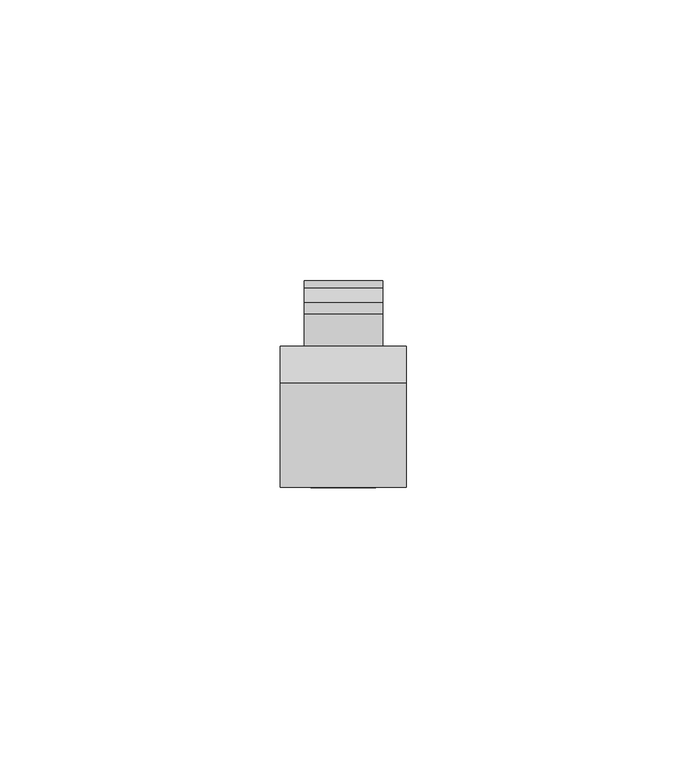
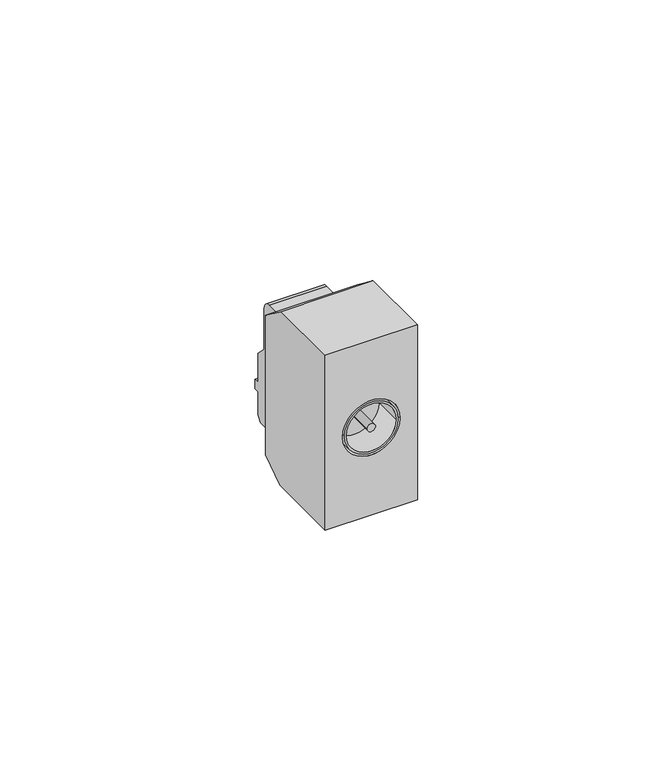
"""IFC4 building model written with IfcOpenShell, lengths in millimetres: proxy geometry."""

from ifc_helpers import new_model, si_unit, point, frame, frame_2d, origin, place, context, project, spatial, polyline, circle_curve, trimmed, segment, composite_curve, outline, extrude, source, transform, mapped, element, save
from ifc_brep_helpers import plane_surface, revolved_surface, advanced_brep


def electrical_fixtures_02093a46(model_context):
    return source(origin(), model_context, "Body", "SolidModel", [
        extrude(outline(composite_curve([segment(trimmed(circle_curve(frame_2d((0.0, 11.2)), 6.5), [point((0.0, 4.7))], [point((0.0, 17.7))], False, "CARTESIAN"), True, "CONTINUOUS"), segment(trimmed(circle_curve(frame_2d((0.0, 11.2)), 6.5), [point((0.0, 17.7))], [point((0.0, 4.7))], False, "CARTESIAN"), True, "CONTINUOUS")], self_intersect=False), holes=[composite_curve([segment(trimmed(circle_curve(frame_2d((0.0, 11.2)), 6.0), [point((0.0, 17.2))], [point((0.0, 5.2))], True, "CARTESIAN"), True, "CONTINUOUS"), segment(trimmed(circle_curve(frame_2d((0.0, 11.2)), 6.0), [point((0.0, 5.2))], [point((0.0, 17.2))], True, "CARTESIAN"), True, "CONTINUOUS")], self_intersect=False)]), frame((0.0, -7.0, 0.0), z_axis=(0.0, 1.0, 0.0), x_axis=(0.0, 0.0, 1.0)), (0.0, 0.0, 1.0), 7.0),
        extrude(outline(composite_curve([segment(trimmed(circle_curve(frame_2d((0.0, 11.2)), 1.0), [point((0.0, 10.2))], [point((0.0, 12.2))], False, "CARTESIAN"), True, "CONTINUOUS"), segment(trimmed(circle_curve(frame_2d((0.0, 11.2)), 1.0), [point((0.0, 12.2))], [point((0.0, 10.2))], False, "CARTESIAN"), True, "CONTINUOUS")], self_intersect=False)), frame((0.0, -7.0, 0.0), z_axis=(0.0, 1.0, 0.0), x_axis=(0.0, 0.0, 1.0)), (0.0, 0.0, 1.0), 7.0),
        extrude(outline(composite_curve([segment(polyline([(18.185865, -17.2591334), (18.185865, 15.1213031), (23.9332742, 15.1213031)]), True, "CONTINUOUS"), segment(trimmed(circle_curve(frame_2d((23.9332742, 13.1353336)), 1.9859696), [point((23.9332742, 15.1213031))], [point((25.9192438, 13.1353336))], False, "CARTESIAN"), True, "CONTINUOUS"), segment(polyline([(25.9192438, 13.1353336), (25.9192438, 2.6100083), (28.5292521, 0.0), (28.5292521, -7.4593956), (29.9, -7.4593956), (29.9, -9.8957394), (28.5292521, -9.8957394), (28.5292521, -15.4231572)]), True, "CONTINUOUS"), segment(trimmed(circle_curve(frame_2d((26.6932758, -15.4231572)), 1.8359762), [point((28.5292521, -15.4231572))], [point((26.6932758, -17.2591334))], False, "CARTESIAN"), True, "CONTINUOUS"), segment(polyline([(26.6932758, -17.2591334), (18.185865, -17.2591334)]), True, "CONTINUOUS")], self_intersect=False)), frame((4.2, 0.0, 0.0), z_axis=(1.0, 0.0, 0.0), x_axis=(0.0, 1.0, 0.0)), (0.0, 0.0, 1.0), 14.0),
        advanced_brep(
        [(22.4, -7.0, -22.45), (22.4, -7.0, 22.45), (0.0, -7.0, 22.45), (0.0, -7.0, -22.45), (18.2, -7.0, 0.0), (4.2, -7.0, 0.0), (22.4, 12.0, -22.45), (22.4, 18.185865, -18.2775814), (22.4, 18.185865, 17.4747472), (22.4, 11.5834815, 22.45), (0.0, 11.5834815, 22.45), (0.0, 18.185865, 17.4747472), (0.0, 18.185865, -18.2775814), (0.0, 12.0, -22.45), (4.2, 0.0, 0.0), (18.2, 0.0, 0.0)],
        [
            (0, 1),
            (1, 2),
            (2, 3),
            (3, 0),
            (4, 5, circle_curve(frame((11.2, -7.0, 0.0), z_axis=(0.0, 1.0, 0.0), x_axis=(1.0, 0.0, 0.0)), 7.0)),
            (5, 4, circle_curve(frame((11.2, -7.0, 0.0), z_axis=(0.0, 1.0, 0.0), x_axis=(1.0, 0.0, 0.0)), 7.0)),
            (0, 6),
            (6, 7),
            (7, 8),
            (8, 9),
            (9, 1),
            (9, 10),
            (10, 2),
            (10, 11),
            (11, 12),
            (12, 13),
            (13, 3),
            (13, 6),
            (12, 7),
            (11, 8),
            (14, 15, circle_curve(frame((11.2, 0.0, 0.0), z_axis=(0.0, -1.0, 0.0), x_axis=(1.0, 0.0, 0.0)), 7.0)),
            (15, 14, circle_curve(frame((11.2, 0.0, 0.0), z_axis=(0.0, -1.0, 0.0), x_axis=(1.0, 0.0, 0.0)), 7.0)),
            (14, 5),
            (4, 15),
        ],
        [
            plane_surface(frame((22.4, -7.0, -22.45), z_axis=(0.0, -1.0, 0.0), x_axis=(0.0, 0.0, 1.0))),
            plane_surface(frame((22.4, -7.0, -22.45), z_axis=(1.0, 0.0, 0.0), x_axis=(0.0, 1.0, 0.0))),
            plane_surface(frame((22.4, -7.0, 22.45), z_axis=(0.0, 0.0, 1.0), x_axis=(0.0, 1.0, 0.0))),
            plane_surface(frame((0.0, -7.0, 22.45), z_axis=(-1.0, 0.0, 0.0), x_axis=(0.0, 1.0, 0.0))),
            plane_surface(frame((0.0, -7.0, -22.45), z_axis=(0.0, 0.0, -1.0), x_axis=(0.0, 1.0, 0.0))),
            plane_surface(frame((22.4, 12.0, -22.45), z_axis=(0.0, 0.5591929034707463, -0.8290375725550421), x_axis=(-1.0, 0.0, 0.0))),
            plane_surface(frame((22.4, 18.185865, -18.2775814), z_axis=(0.0, 1.0, 0.0), x_axis=(-1.0, 0.0, 0.0))),
            plane_surface(frame((22.4, 18.185865, 17.4747472), z_axis=(0.0, 0.6018150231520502, 0.7986355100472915), x_axis=(-1.0, 0.0, 0.0))),
            plane_surface(frame((18.2, 0.0, 0.0), z_axis=(0.0, -1.0, 0.0), x_axis=(0.0, 0.0, -1.0))),
            revolved_surface(polyline([(18.2, -7.0, 0.0), (18.2, 0.0, 0.0)]), (11.2, 0.0, 0.0), (0.0, -1.0, 0.0)),
        ],
        [
            (0, [[1, 2, 3, 4], [5, 6]]),
            (1, [[-1, 7, 8, 9, 10, 11]]),
            (2, [[-2, -11, 12, 13]]),
            (3, [[-3, -13, 14, 15, 16, 17]]),
            (4, [[-7, -4, -17, 18]]),
            (5, [[-8, -18, -16, 19]]),
            (6, [[-9, -19, -15, 20]]),
            (7, [[-10, -20, -14, -12]]),
            (8, [[21, 22]]),
            (9, [[-21, 23, -5, 24]]),
            (9, [[-22, -24, -6, -23]]),
        ],
    ),
    ])


if __name__ == "__main__":
    model = new_model("IFC4")
    model_context = context("Model", 3, world=origin())
    ifc_project = project(units=[si_unit("LENGTHUNIT", "METRE", prefix="MILLI")], contexts=[model_context])
    site = spatial("IfcSite", under=ifc_project)
    building = spatial("IfcBuilding", under=site)
    placement = place(None, origin())
    electrical_fixtures_shape = electrical_fixtures_02093a46(model_context)
    element("IfcBuildingElementProxy", 1, Name="Electrical Fixtures", at=placement, inside=building, context=model_context, shape_type="MappedRepresentation", body=[
        mapped(electrical_fixtures_shape, transform((0.0, 0.0, 0.0), x_axis=(1.0, 0.0, 0.0), y_axis=(0.0, 1.0, 0.0), z_axis=(0.0, 0.0, 1.0))),
    ])
    save(model, "model.ifc")
